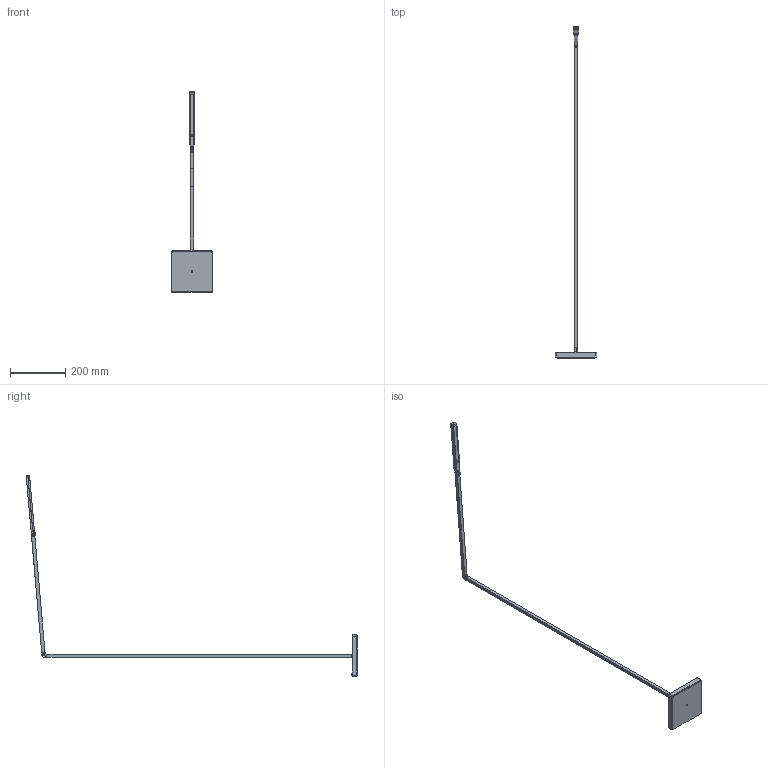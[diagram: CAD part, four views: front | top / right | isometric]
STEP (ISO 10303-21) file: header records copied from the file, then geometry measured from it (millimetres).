
FILE_DESCRIPTION (( 'STEP AP203' ), '1' );
FILE_NAME ('UNTITLED READING LINEAR.STEP', '2022-06-08T12:56:35', ( '' ), ( '' ), 'SwSTEP 2.0', 'SolidWorks 2016', '' );
FILE_SCHEMA (( 'CONFIG_CONTROL_DESIGN' ));
Length unit declared in the file: millimetre
Products named in the file (40): 052UNT700800_RONDELLA SNODO_2; 052UNT700100_TAPPO FEMM SNODO_2; 001_ASS_SNODO TESTA_DRITTO_2; 052UNT700600_COVER SNODO_600; 052UNT701200_SEMIGUSCIO_INF_TESTA; 051UNT700300_FRES. DIMMER_010UNT700300_FRES. DIMMER; 052UNT700300_INSERTO DX SNODO_SX TAGLIATA_2; ASS_UNT_BASE TAVOLO+TERRA_TAVOLO; 052UNT701500_COVER DIMMER_CON FORO; 001_ASS_SNODO BASE; 051UNT700500_STELO FR CAVO L1100 AL GR_010UNT700400_FRES. CAVO; 004COM000042_ROND SPESS 13x7x0.3 DIN988_2; BASE; 002COM000084_VITE 3x08 TC TORX SCREWPLAST; 052UNT701600_COVER BLOCCACAVO_sotto carico; 052UNT701900_COVER ZAVORRA; 052UNT700600_COVER SNODO_700; 052UNT700300_INSERTO DX SNODO_SX TAGLIATA; TUBO Ï1,5x6 GUIDALUCE DIMMER_Ø1,5; 002_ASS_SNODO F CENTR_DEFAULT; 052UNT700100_TAPPO FEMM SNODO; 001_ASS_SNODO CENTRALE_95; 052UNT700200_TAPPO MASCH SNODO_Logo Nemo_2; 052UNT700300_INSERTO DX SNODO_DX TAGLIATA_2; 002_ASS_SNODO M CENTR; UNTITLED READING LINEAR; 010UNT700700_ZAVORRA LAMATA UNT TAVOLO_tavolo; 010UNT700400_SNODO FEMM BASE; 002_ASS_SNODO F CENTR_DEFAULT_2; 052UNT700200_TAPPO MASCH SNODO_Logo Nemo; 052UNT700900_SNODO TESTA_2; 052UNT700600_COVER SNODO_600_2; TESTA LINEAR; 002_ASS_TESTA; 001_ASS_STELO READING+BL CAVO; 052UNT701300_SEMIGUSCIO_SUP_TESTA; 002COM000084_VITE 3x08 TC TORX SCREWPLAST_2; 002_ASS_STELO+DIMMER+CAVO_DIMMER; 052UNT700500_INSERTO CENTR SNODO_paletta tagliata; 052UNT700300_INSERTO DX SNODO_DX TAGLIATA
Assembly tree (39 placements, depth 5):
  UNTITLED READING LINEAR
    001_ASS_SNODO CENTRALE_95
      002_ASS_SNODO F CENTR_DEFAULT
        052UNT700600_COVER SNODO_600
        052UNT700300_INSERTO DX SNODO_SX TAGLIATA
        052UNT700300_INSERTO DX SNODO_DX TAGLIATA
      002_ASS_SNODO M CENTR
        052UNT700600_COVER SNODO_700
        052UNT700500_INSERTO CENTR SNODO_paletta tagliata
      052UNT700200_TAPPO MASCH SNODO_Logo Nemo
      052UNT700100_TAPPO FEMM SNODO
      002COM000084_VITE 3x08 TC TORX SCREWPLAST
    002_ASS_STELO+DIMMER+CAVO_DIMMER
      051UNT700300_FRES. DIMMER_010UNT700300_FRES. DIMMER
      052UNT701500_COVER DIMMER_CON FORO
      TUBO Ï1,5x6 GUIDALUCE DIMMER_Ø1,5
    001_ASS_STELO READING+BL CAVO
      051UNT700500_STELO FR CAVO L1100 AL GR_010UNT700400_FRES. CAVO
      052UNT701600_COVER BLOCCACAVO_sotto carico
    BASE
      001_ASS_SNODO BASE
        010UNT700400_SNODO FEMM BASE
      ASS_UNT_BASE TAVOLO+TERRA_TAVOLO
        010UNT700700_ZAVORRA LAMATA UNT TAVOLO_tavolo
        052UNT701900_COVER ZAVORRA
    TESTA LINEAR
      002_ASS_TESTA
        052UNT701200_SEMIGUSCIO_INF_TESTA
        052UNT701300_SEMIGUSCIO_SUP_TESTA
      001_ASS_SNODO TESTA_DRITTO_2
        002_ASS_SNODO F CENTR_DEFAULT_2
          052UNT700600_COVER SNODO_600_2
          052UNT700300_INSERTO DX SNODO_SX TAGLIATA_2
          052UNT700300_INSERTO DX SNODO_DX TAGLIATA_2
        052UNT700900_SNODO TESTA_2
        002COM000084_VITE 3x08 TC TORX SCREWPLAST_2
        052UNT700100_TAPPO FEMM SNODO_2
        052UNT700800_RONDELLA SNODO_2
        052UNT700200_TAPPO MASCH SNODO_Logo Nemo_2
        004COM000042_ROND SPESS 13x7x0.3 DIN988_2
Bounding box: 150.31 x 1196.91 x 725.4 mm (x, y, z)
Volume: 707742.6 mm3; surface area: 210378.7 mm2
Topology: 25 solids, 29 shells, 1373 faces, 3230 edges, 1942 vertices
Faces by surface type: bspline 654, cylinder 343, plane 318, cone 54, torus 4
Entity records: 94465 total; most frequent: CARTESIAN_POINT 64604, ORIENTED_EDGE 6454, DIRECTION 3351, EDGE_CURVE 3230, VERTEX_POINT 1942, B_SPLINE_CURVE_WITH_KNOTS 1538, EDGE_LOOP 1416, ADVANCED_FACE 1373
